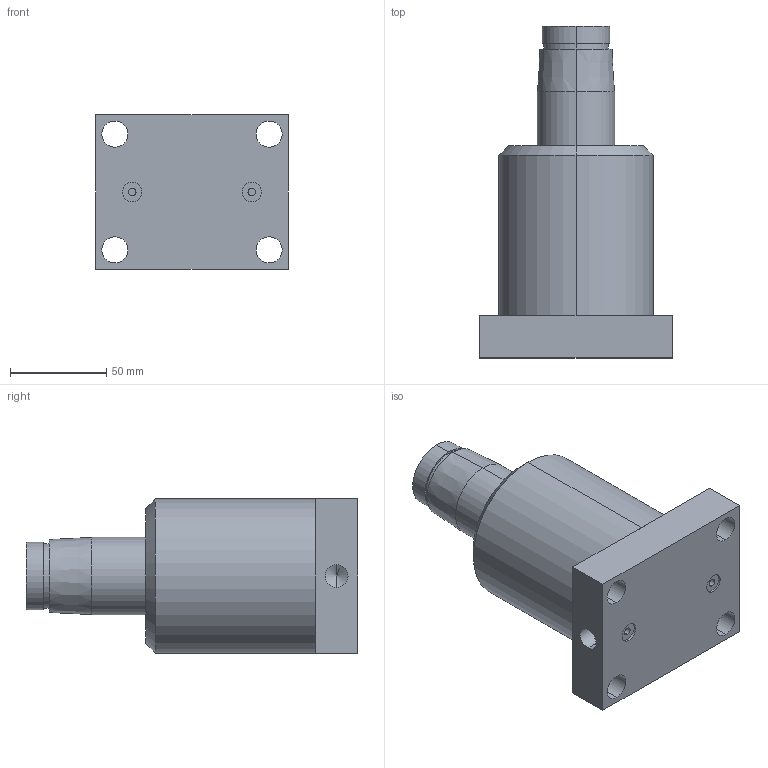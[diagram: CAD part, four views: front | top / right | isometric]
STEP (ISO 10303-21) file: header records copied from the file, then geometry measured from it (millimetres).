
FILE_DESCRIPTION (( 'STEP AP214' ), '1' );
FILE_NAME ('#HPS-50DB.STEP', '2021-10-18T08:29:04', ( '' ), ( '' ), 'SwSTEP 2.0', 'SolidWorks 2016', '' );
FILE_SCHEMA (( 'AUTOMOTIVE_DESIGN' ));
Length unit declared in the file: millimetre
Products named in the file (1): #HPS-50DB
Bounding box: 100 x 172 x 80 mm (x, y, z)
Volume: 671338.3 mm3; surface area: 56791.2 mm2
Topology: 1 solids, 1 shells, 51 faces, 114 edges, 70 vertices
Faces by surface type: cylinder 28, plane 15, cone 8
Entity records: 1520 total; most frequent: DIRECTION 274, CARTESIAN_POINT 232, ORIENTED_EDGE 220, AXIS2_PLACEMENT_3D 112, EDGE_CURVE 110, VERTEX_POINT 70, EDGE_LOOP 68, CIRCLE 60
